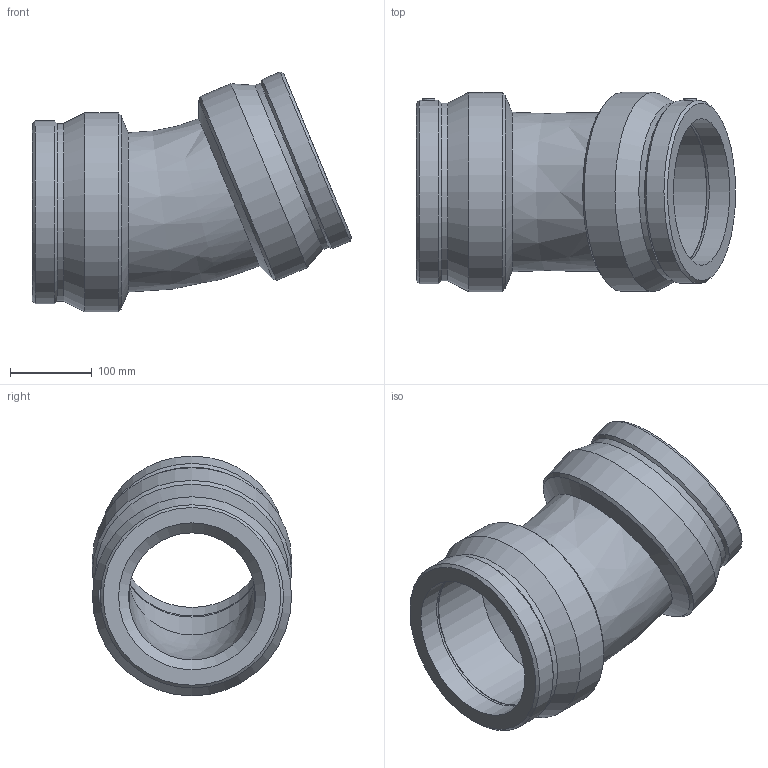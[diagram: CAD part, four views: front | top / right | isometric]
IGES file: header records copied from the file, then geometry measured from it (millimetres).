
Global section: file name: 490804180.ipt; native system: Autodesk Inventor 2015; preprocessor: unknown; author: KIM; date: 20180412.111811; units: millimetre
Bounding box: 391 x 244 x 293.89 mm (x, y, z)
Volume: 5425789 mm3; surface area: 503328.9 mm2
Topology: 1 solids, 1 shells, 42 faces, 98 edges, 64 vertices
Faces by surface type: revolution 12, cone 12, plane 10, cylinder 8
Full cylindrical faces by diameter (mm): 4 x2, 217.746 x2, 224.48 x2, 244 x2
